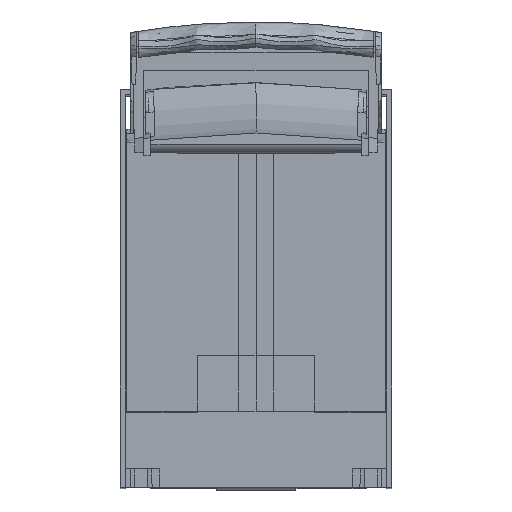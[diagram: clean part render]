
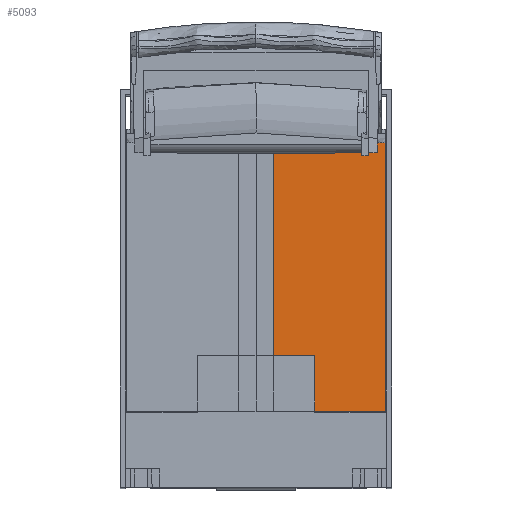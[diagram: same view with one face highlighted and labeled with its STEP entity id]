
A CAD part, left-side view. The second image highlights one B-rep face of the part: STEP entity #5093.
In plain terms, the highlighted planar face has unit normal (-1, -0.009, 0).
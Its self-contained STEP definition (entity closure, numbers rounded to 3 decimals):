
#456=ELLIPSE('',#34107,9752.829,85.108);
#3893=PLANE('',#34108);
#5093=ADVANCED_FACE('',(#6722),#3893,.T.);
#6722=FACE_OUTER_BOUND('',#8334,.T.);
#8334=EDGE_LOOP('',(#15130,#15131,#15132,#15133,#15134,#15135,#15136,#15137,
#15138,#15139,#15140));
#15130=ORIENTED_EDGE('',*,*,#25032,.F.);
#15131=ORIENTED_EDGE('',*,*,#25033,.F.);
#15132=ORIENTED_EDGE('',*,*,#25034,.F.);
#15133=ORIENTED_EDGE('',*,*,#25035,.T.);
#15134=ORIENTED_EDGE('',*,*,#25036,.F.);
#15135=ORIENTED_EDGE('',*,*,#25037,.T.);
#15136=ORIENTED_EDGE('',*,*,#25038,.F.);
#15137=ORIENTED_EDGE('',*,*,#25039,.F.);
#15138=ORIENTED_EDGE('',*,*,#25040,.T.);
#15139=ORIENTED_EDGE('',*,*,#25016,.T.);
#15140=ORIENTED_EDGE('',*,*,#24856,.T.);
#21025=VERTEX_POINT('',#58355);
#21027=VERTEX_POINT('',#58358);
#21106=VERTEX_POINT('',#59456);
#21157=VERTEX_POINT('',#62005);
#21169=VERTEX_POINT('',#62035);
#21170=VERTEX_POINT('',#62037);
#21171=VERTEX_POINT('',#62039);
#21172=VERTEX_POINT('',#62042);
#21173=VERTEX_POINT('',#62044);
#21174=VERTEX_POINT('',#62046);
#21175=VERTEX_POINT('',#62048);
#24856=EDGE_CURVE('',#21027,#21025,#28946,.T.);
#25016=EDGE_CURVE('',#21157,#21027,#29060,.T.);
#25032=EDGE_CURVE('',#21169,#21025,#29073,.T.);
#25033=EDGE_CURVE('',#21170,#21169,#29074,.T.);
#25034=EDGE_CURVE('',#21171,#21170,#29075,.T.);
#25035=EDGE_CURVE('',#21171,#21106,#29076,.T.);
#25036=EDGE_CURVE('',#21172,#21106,#29077,.T.);
#25037=EDGE_CURVE('',#21172,#21173,#29078,.T.);
#25038=EDGE_CURVE('',#21174,#21173,#29079,.T.);
#25039=EDGE_CURVE('',#21175,#21174,#29080,.T.);
#25040=EDGE_CURVE('',#21175,#21157,#456,.T.);
#28946=LINE('',#58357,#31932);
#29060=LINE('',#62004,#32046);
#29073=LINE('',#62034,#32059);
#29074=LINE('',#62036,#32060);
#29075=LINE('',#62038,#32061);
#29076=LINE('',#62040,#32062);
#29077=LINE('',#62041,#32063);
#29078=LINE('',#62043,#32064);
#29079=LINE('',#62045,#32065);
#29080=LINE('',#62047,#32066);
#31932=VECTOR('',#38711,1.);
#32046=VECTOR('',#38897,1.);
#32059=VECTOR('',#38920,1.);
#32060=VECTOR('',#38921,1.);
#32061=VECTOR('',#38922,1.);
#32062=VECTOR('',#38923,1.);
#32063=VECTOR('',#38924,1.);
#32064=VECTOR('',#38925,1.);
#32065=VECTOR('',#38926,1.);
#32066=VECTOR('',#38927,1.);
#34107=AXIS2_PLACEMENT_3D('',#62049,#38928,#38929);
#34108=AXIS2_PLACEMENT_3D('',#62050,#38930,#38931);
#38711=DIRECTION('',(-0.009,1.,-0.009));
#38897=DIRECTION('',(0.,0.,-1.));
#38920=DIRECTION('',(0.,0.,1.));
#38921=DIRECTION('',(0.009,-1.,0.));
#38922=DIRECTION('',(0.,0.009,-1.));
#38923=DIRECTION('',(-0.009,1.,-0.009));
#38924=DIRECTION('',(-0.009,1.,0.009));
#38925=DIRECTION('',(0.,0.,-1.));
#38926=DIRECTION('',(-0.009,1.,0.));
#38927=DIRECTION('',(0.,0.,-1.));
#38928=DIRECTION('',(1.,0.009,0.));
#38929=DIRECTION('',(-0.009,1.,0.));
#38930=DIRECTION('',(-1.,-0.009,0.));
#38931=DIRECTION('',(0.009,-1.,0.));
#58355=CARTESIAN_POINT('',(-296.628,-42.6,126.788));
#58357=CARTESIAN_POINT('',(-297.003,0.318,126.413));
#58358=CARTESIAN_POINT('',(-296.599,-46.,126.818));
#59456=CARTESIAN_POINT('',(-297.,0.,126.416));
#62004=CARTESIAN_POINT('',(-296.599,-46.,90.));
#62005=CARTESIAN_POINT('',(-296.599,-46.,130.521));
#62034=CARTESIAN_POINT('',(-296.628,-42.6,90.));
#62035=CARTESIAN_POINT('',(-296.628,-42.6,125.589));
#62036=CARTESIAN_POINT('',(-297.,0.,125.589));
#62037=CARTESIAN_POINT('',(-296.65,-40.051,125.589));
#62038=CARTESIAN_POINT('',(-296.653,-39.737,89.653));
#62039=CARTESIAN_POINT('',(-296.65,-40.061,126.766));
#62040=CARTESIAN_POINT('',(-297.003,0.318,126.413));
#62041=CARTESIAN_POINT('',(-296.997,-0.318,126.413));
#62042=CARTESIAN_POINT('',(-296.943,-6.5,126.359));
#62043=CARTESIAN_POINT('',(-296.943,-6.5,90.));
#62044=CARTESIAN_POINT('',(-296.943,-6.5,28.925));
#62045=CARTESIAN_POINT('',(-296.557,-50.806,28.925));
#62046=CARTESIAN_POINT('',(-296.572,-49.,28.925));
#62047=CARTESIAN_POINT('',(-296.572,-49.,124.382));
#62048=CARTESIAN_POINT('',(-296.572,-49.,130.521));
#62049=CARTESIAN_POINT('',(-297.,0.,215.628));
#62050=CARTESIAN_POINT('',(-297.,0.,90.));
